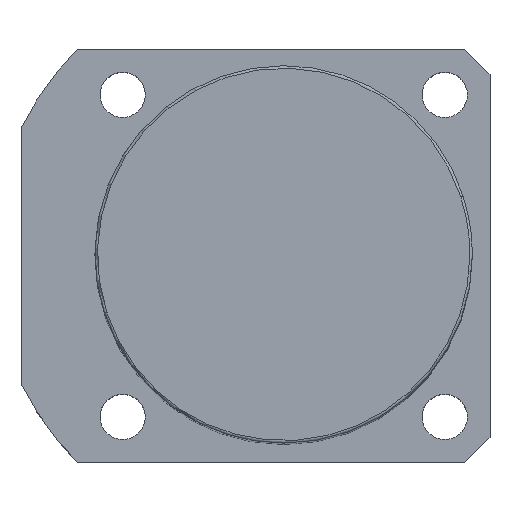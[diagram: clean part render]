
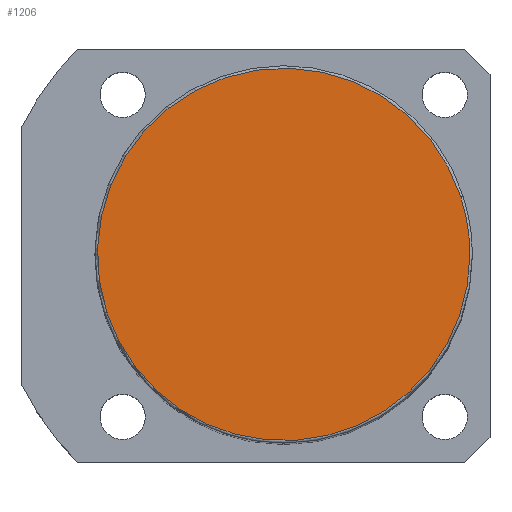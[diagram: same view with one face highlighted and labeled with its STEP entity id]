
A CAD part, top view. The second image highlights one B-rep face of the part: STEP entity #1206.
In plain terms, the highlighted planar face has unit normal (0, 0, 1).
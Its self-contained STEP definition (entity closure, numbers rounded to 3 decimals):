
#1139=CARTESIAN_POINT('',(35.189,11.434,178.0));
#1140=VERTEX_POINT('',#1139);
#1158=CARTESIAN_POINT('',(-35.189,-11.434,178.0));
#1159=VERTEX_POINT('',#1158);
#1167=CARTESIAN_POINT('',(0.0,0.0,178.0));
#1168=DIRECTION('',(0.0,0.0,1.0));
#1169=DIRECTION('',(1.0,0.0,0.0));
#1170=AXIS2_PLACEMENT_3D('',#1167,#1168,#1169);
#1171=CIRCLE('',#1170,37.0);
#1172=EDGE_CURVE('no 1745',#1140,#1159,#1171,.T.);
#1182=CARTESIAN_POINT('',(37.0,0.0,178.0));
#1183=VERTEX_POINT('',#1182);
#1184=CARTESIAN_POINT('',(0.0,0.0,178.0));
#1185=DIRECTION('',(0.0,0.0,1.0));
#1186=DIRECTION('',(1.0,0.0,0.0));
#1187=AXIS2_PLACEMENT_3D('',#1184,#1185,#1186);
#1188=CIRCLE('',#1187,37.0);
#1189=EDGE_CURVE('no 1754',#1183,#1140,#1188,.T.);
#1190=ORIENTED_EDGE('',*,*,#1189,.T.);
#1191=ORIENTED_EDGE('',*,*,#1172,.T.);
#1192=CARTESIAN_POINT('',(0.0,0.0,178.0));
#1193=DIRECTION('',(0.0,0.0,1.0));
#1194=DIRECTION('',(1.0,0.0,0.0));
#1195=AXIS2_PLACEMENT_3D('',#1192,#1193,#1194);
#1196=CIRCLE('',#1195,37.0);
#1197=EDGE_CURVE('no 1760',#1159,#1183,#1196,.T.);
#1198=ORIENTED_EDGE('',*,*,#1197,.T.);
#1199=EDGE_LOOP('',(#1190,#1191,#1198));
#1200=FACE_OUTER_BOUND('',#1199,.T.);
#1201=CARTESIAN_POINT('',(0.0,0.0,178.0));
#1202=DIRECTION('',(0.0,0.0,1.0));
#1203=DIRECTION('',(1.0,0.0,0.0));
#1204=AXIS2_PLACEMENT_3D('',#1201,#1202,#1203);
#1205=PLANE('',#1204);
#1206=ADVANCED_FACE('no 1747',(#1200),#1205,.T.);
